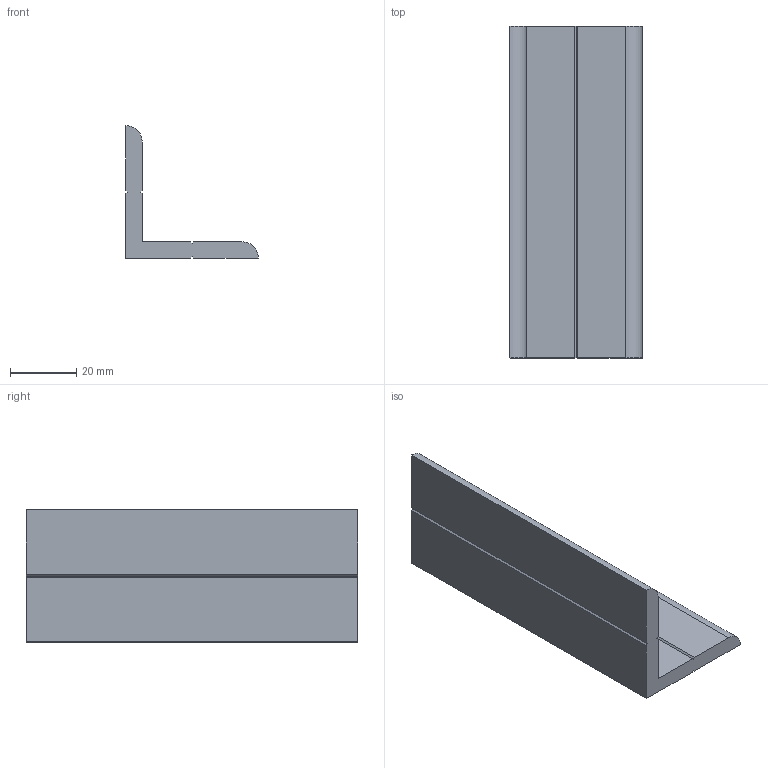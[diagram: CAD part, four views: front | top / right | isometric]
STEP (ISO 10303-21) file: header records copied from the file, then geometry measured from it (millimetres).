
FILE_DESCRIPTION(/* description */ ('Unknown'),/* implementation_level */ '2;1');
FILE_NAME(/* name */ 'NML4090',/* time_stamp */ '2026-09-02T13:03:34+08:00',/* author */ ('Unknown'),/* organization */ ('Unknown'),/* preprocessor_version */ 'ST-DEVELOPER v16.7',/* originating_system */ 'DEX',/* authorisation */ $);
FILE_SCHEMA (('AUTOMOTIVE_DESIGN {1 0 10303 214 3 1 1}'));
Length unit declared in the file: millimetre
Products named in the file (1): NML4090
Bounding box: 40 x 100 x 40 mm (x, y, z)
Volume: 36326.1 mm3; surface area: 16454.4 mm2
Topology: 1 solids, 1 shells, 21 faces, 57 edges, 38 vertices
Faces by surface type: plane 18, cylinder 3
Entity records: 828 total; most frequent: CARTESIAN_POINT 117, ORIENTED_EDGE 114, DIRECTION 107, EDGE_CURVE 57, LINE 51, VECTOR 51, VERTEX_POINT 38, AXIS2_PLACEMENT_3D 28
